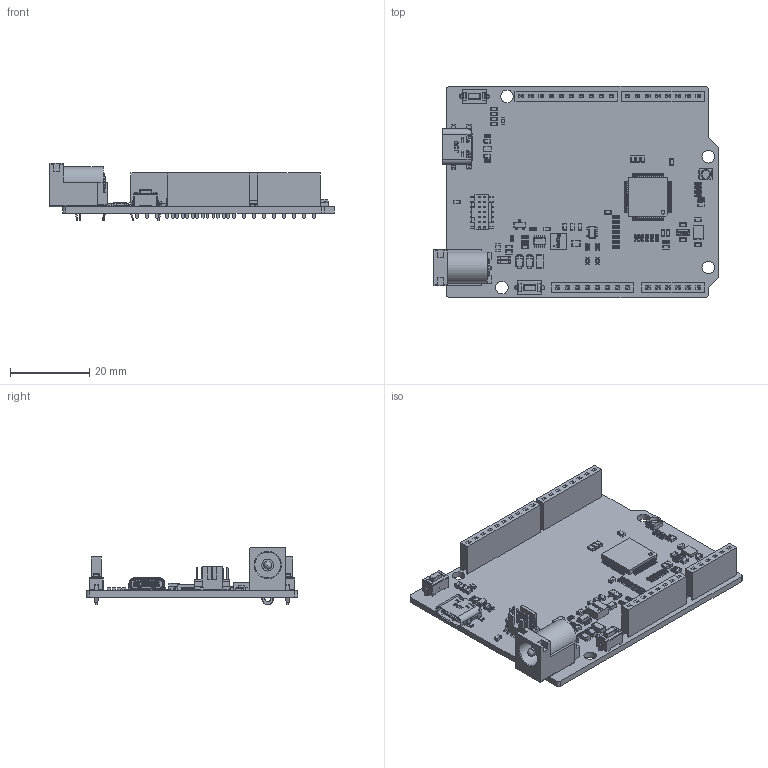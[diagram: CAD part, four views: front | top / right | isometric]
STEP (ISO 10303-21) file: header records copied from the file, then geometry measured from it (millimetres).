
FILE_DESCRIPTION(('Open CASCADE Model'),'2;1');
FILE_NAME('Open CASCADE Shape Model','2024-12-13T21:02:22',('Author'),( 'Open CASCADE'),'Open CASCADE STEP processor 7.5','Open CASCADE 7.5' ,'Unknown');
FILE_SCHEMA(('AUTOMOTIVE_DESIGN { 1 0 10303 214 1 1 1 1 }'));
Length unit declared in the file: millimetre
Products named in the file (196): PCB; Board; Open CASCADE STEP translator 7.5 1.1.1; X2; RH100-16.000-9-1010-EXT-TR; Body; Pins; X1; QUARTZ_SC-32S_V2 v7; U2; SOT25; CPD; LDF; U3; LQFP64_10X10_P050; U1; 1101752224; Open CASCADE STEP translator 7.5 11.1.1; Leader; SW2; PTS636SL43LFS; PTS636SL43LFS_PART10; PTS636SL43LFS_PART9; PTS636SL43LFS_PART8; PTS636SL43LFS_PART7; PTS636SL43LFS_PART6; PTS636SL43LFS_PART5; PTS636SL43LFS_PART4; PTS636SL43LFS_PART3; PTS636SL43LFS_PART2; PTS636SL43LFS_PART1; SW1; R24; R0603; R23; R22; R20; R4; R6; R5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
Assembly tree (281 placements, depth 5):
  PCB
    Board
      Open CASCADE STEP translator 7.5 1.1.1
    X2
      RH100-16.000-9-1010-EXT-TR
        Body
        Pins
    X1
      QUARTZ_SC-32S_V2 v7
    U2
      SOT25
        CPD
        LDF
    U3
      LQFP64_10X10_P050
    U1
      1101752224
        Body
          Open CASCADE STEP translator 7.5 11.1.1
        Leader  x6
    SW2
      PTS636SL43LFS
        PTS636SL43LFS_PART10
        PTS636SL43LFS_PART9
        PTS636SL43LFS_PART8
        PTS636SL43LFS_PART7
        PTS636SL43LFS_PART6
        PTS636SL43LFS_PART5
        PTS636SL43LFS_PART4
        PTS636SL43LFS_PART3
        PTS636SL43LFS_PART2
        PTS636SL43LFS_PART1
    SW1
      PTS636SL43LFS
        PTS636SL43LFS_PART10
        PTS636SL43LFS_PART9
        PTS636SL43LFS_PART8
        PTS636SL43LFS_PART7
        PTS636SL43LFS_PART6
        PTS636SL43LFS_PART5
        PTS636SL43LFS_PART4
        PTS636SL43LFS_PART3
        PTS636SL43LFS_PART2
        PTS636SL43LFS_PART1
    R24
      R0603
    R23
      R0603
    R22
      R0603
    R20
      R0603
    R4
      R0603
    R6
      R0603
    R5
      R0603
    R2
      R0603
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Bounding box: 71.82 x 53.34 x 14.5 mm (x, y, z)
Volume: 8591.7 mm3; surface area: 16115 mm2
Topology: 324 solids, 326 shells, 9255 faces, 23553 edges, 14855 vertices
Faces by surface type: plane 5796, cylinder 1702, bspline 1264, sphere 327, extrusion 80, torus 63, cone 23
Full cylindrical faces by diameter (mm): 0.05 x58, 0.08 x2, 0.3 x1, 0.5 x2, 0.65 x2, 0.8 x5, 1.02 x32, 1.2 x4, 1.25 x1, 1.4 x2, 2 x1, 3 x1, 3.174 x4, 6.5 x1
Entity records: 162355 total; most frequent: CARTESIAN_POINT 34052, ORIENTED_EDGE 22793, DIRECTION 21451, EDGE_CURVE 11397, VECTOR 8601, LINE 8579, VERTEX_POINT 7270, AXIS2_PLACEMENT_3D 6425
